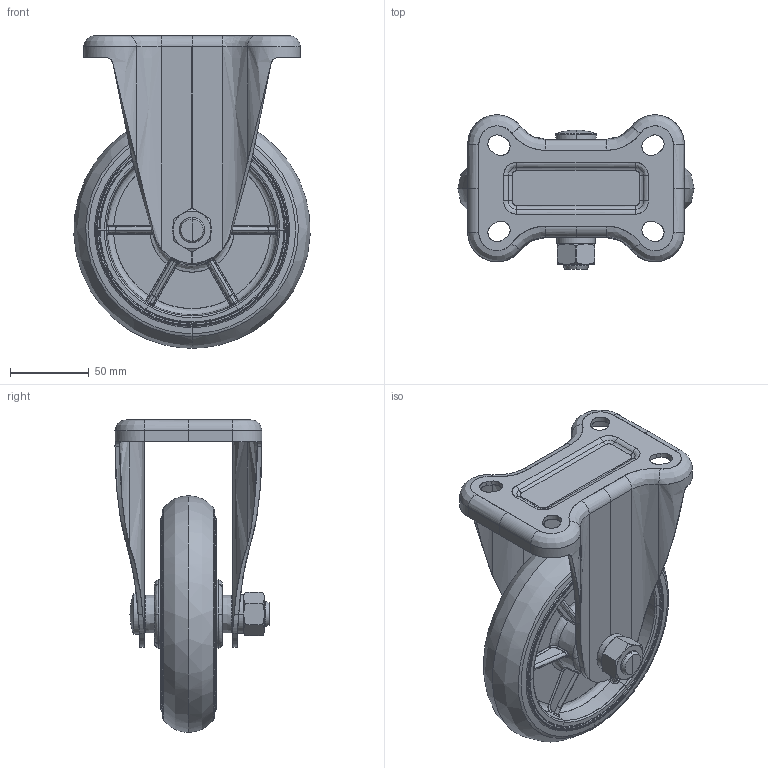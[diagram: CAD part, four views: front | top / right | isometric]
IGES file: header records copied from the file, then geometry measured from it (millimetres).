
Start section: JAMA-IS VERSION  1.0
Global section: file name: C:\CAM-TOOL data\ToolsFile\INOAC幵椫\12寧\LR-150WK-20\LR-150WK-冇20-ALL.igs; native system: CAM-TOOL; preprocessor: C3out Version 11.1.1.50212 (2015/02/12); author: NONE; organization: NONE; date: 241208.195153; units: millimetre
Bounding box: 149.52 x 97.5 x 197.84 mm (x, y, z)
Surface area: 179617.2 mm2 (no closed solid volume)
Topology: 0 solids, 0 shells, 769 faces, 6912 edges, 7564 vertices
Faces by surface type: bspline 769
